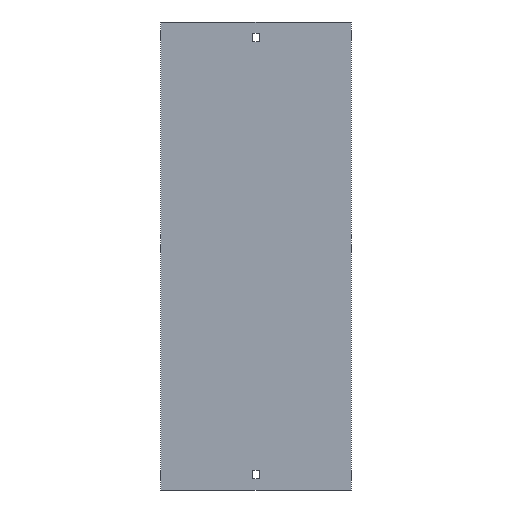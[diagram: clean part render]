
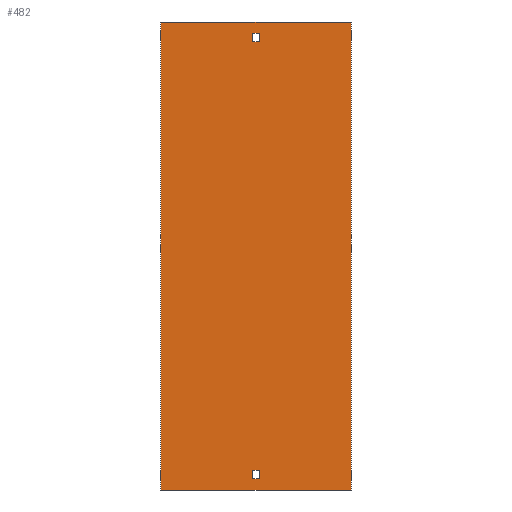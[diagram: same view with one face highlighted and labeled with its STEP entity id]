
A CAD part, front view. The second image highlights one B-rep face of the part: STEP entity #482.
In plain terms, the highlighted planar face has unit normal (0, -1, 0).
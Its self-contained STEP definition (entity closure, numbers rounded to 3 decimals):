
#35 = ORIENTED_EDGE ( 'NONE', *, *, #42, .F. ) ;
#42 = EDGE_CURVE ( 'NONE', #910, #821, #952, .T. ) ;
#77 = ORIENTED_EDGE ( 'NONE', *, *, #685, .T. ) ;
#100 = VECTOR ( 'NONE', #234, 1000. ) ;
#101 = EDGE_LOOP ( 'NONE', ( #1099, #504, #994, #1231 ) ) ;
#118 = CARTESIAN_POINT ( 'NONE',  ( -102., 0., 250. ) ) ;
#122 = VECTOR ( 'NONE', #923, 1000. ) ;
#124 = CARTESIAN_POINT ( 'NONE',  ( 3.25, 0., 238. ) ) ;
#126 = VECTOR ( 'NONE', #252, 1000. ) ;
#147 = DIRECTION ( 'NONE',  ( -1., 0., 0. ) ) ;
#161 = DIRECTION ( 'NONE',  ( 0., 0., -1. ) ) ;
#170 = EDGE_CURVE ( 'NONE', #935, #1529, #1062, .T. ) ;
#190 = CARTESIAN_POINT ( 'NONE',  ( -3.25, 0., 229. ) ) ;
#193 = CARTESIAN_POINT ( 'NONE',  ( -3.25, 0., -229. ) ) ;
#229 = CARTESIAN_POINT ( 'NONE',  ( -102., 0., 250. ) ) ;
#234 = DIRECTION ( 'NONE',  ( 0., 0., 1. ) ) ;
#252 = DIRECTION ( 'NONE',  ( 1., 0., 0. ) ) ;
#257 = VERTEX_POINT ( 'NONE', #1350 ) ;
#287 = VECTOR ( 'NONE', #414, 1000. ) ;
#301 = VECTOR ( 'NONE', #161, 1000. ) ;
#327 = EDGE_CURVE ( 'NONE', #1215, #1203, #338, .T. ) ;
#338 = LINE ( 'NONE', #190, #889 ) ;
#339 = VECTOR ( 'NONE', #896, 1000. ) ;
#354 = EDGE_CURVE ( 'NONE', #1529, #1215, #993, .T. ) ;
#355 = DIRECTION ( 'NONE',  ( -1., 0., 0. ) ) ;
#366 = FACE_BOUND ( 'NONE', #1075, .T. ) ;
#368 = DIRECTION ( 'NONE',  ( 1., 0., 0. ) ) ;
#382 = LINE ( 'NONE', #1553, #339 ) ;
#391 = DIRECTION ( 'NONE',  ( 0., 0., -1. ) ) ;
#414 = DIRECTION ( 'NONE',  ( 0., 0., -1. ) ) ;
#466 = FACE_BOUND ( 'NONE', #101, .T. ) ;
#482 = ADVANCED_FACE ( 'NONE', ( #1126, #466, #366 ), #1262, .F. ) ;
#485 = VECTOR ( 'NONE', #355, 1000. ) ;
#504 = ORIENTED_EDGE ( 'NONE', *, *, #354, .F. ) ;
#538 = ORIENTED_EDGE ( 'NONE', *, *, #1612, .F. ) ;
#577 = CARTESIAN_POINT ( 'NONE',  ( 102., 0., 250. ) ) ;
#598 = EDGE_CURVE ( 'NONE', #1203, #935, #1303, .T. ) ;
#609 = EDGE_CURVE ( 'NONE', #1047, #821, #382, .T. ) ;
#643 = LINE ( 'NONE', #1032, #100 ) ;
#659 = DIRECTION ( 'NONE',  ( 0., 0., -1. ) ) ;
#674 = CARTESIAN_POINT ( 'NONE',  ( 3.25, 0., -229. ) ) ;
#685 = EDGE_CURVE ( 'NONE', #1438, #1249, #1349, .T. ) ;
#730 = CARTESIAN_POINT ( 'NONE',  ( -3.25, 0., -238. ) ) ;
#765 = CARTESIAN_POINT ( 'NONE',  ( -102., 0., -250. ) ) ;
#787 = EDGE_CURVE ( 'NONE', #1249, #257, #864, .T. ) ;
#821 = VERTEX_POINT ( 'NONE', #1519 ) ;
#849 = ORIENTED_EDGE ( 'NONE', *, *, #787, .T. ) ;
#852 = VECTOR ( 'NONE', #391, 1000. ) ;
#853 = DIRECTION ( 'NONE',  ( 0., 1., 0. ) ) ;
#864 = LINE ( 'NONE', #730, #485 ) ;
#868 = CARTESIAN_POINT ( 'NONE',  ( -3.25, 0., 238. ) ) ;
#877 = DIRECTION ( 'NONE',  ( 1., 0., 0. ) ) ;
#889 = VECTOR ( 'NONE', #877, 1000. ) ;
#896 = DIRECTION ( 'NONE',  ( 1., 0., 0. ) ) ;
#910 = VERTEX_POINT ( 'NONE', #1630 ) ;
#923 = DIRECTION ( 'NONE',  ( 0., 0., 1. ) ) ;
#935 = VERTEX_POINT ( 'NONE', #1271 ) ;
#945 = ORIENTED_EDGE ( 'NONE', *, *, #1659, .T. ) ;
#952 = LINE ( 'NONE', #577, #301 ) ;
#959 = EDGE_CURVE ( 'NONE', #257, #1190, #643, .T. ) ;
#974 = CARTESIAN_POINT ( 'NONE',  ( -3.25, 0., 238. ) ) ;
#993 = LINE ( 'NONE', #868, #852 ) ;
#994 = ORIENTED_EDGE ( 'NONE', *, *, #170, .F. ) ;
#1015 = LINE ( 'NONE', #1535, #126 ) ;
#1032 = CARTESIAN_POINT ( 'NONE',  ( -3.25, 0., -238. ) ) ;
#1035 = EDGE_CURVE ( 'NONE', #1190, #1438, #1015, .T. ) ;
#1037 = EDGE_LOOP ( 'NONE', ( #1579, #35, #538, #945 ) ) ;
#1047 = VERTEX_POINT ( 'NONE', #765 ) ;
#1062 = LINE ( 'NONE', #1323, #1097 ) ;
#1075 = EDGE_LOOP ( 'NONE', ( #1468, #1411, #77, #849 ) ) ;
#1097 = VECTOR ( 'NONE', #147, 1000. ) ;
#1099 = ORIENTED_EDGE ( 'NONE', *, *, #327, .F. ) ;
#1114 = CARTESIAN_POINT ( 'NONE',  ( -3.25, 0., 229. ) ) ;
#1126 = FACE_OUTER_BOUND ( 'NONE', #1037, .T. ) ;
#1190 = VERTEX_POINT ( 'NONE', #193 ) ;
#1191 = CARTESIAN_POINT ( 'NONE',  ( 3.25, 0., -238. ) ) ;
#1203 = VERTEX_POINT ( 'NONE', #1248 ) ;
#1215 = VERTEX_POINT ( 'NONE', #1114 ) ;
#1219 = CARTESIAN_POINT ( 'NONE',  ( 3.25, 0., -238. ) ) ;
#1231 = ORIENTED_EDGE ( 'NONE', *, *, #598, .F. ) ;
#1248 = CARTESIAN_POINT ( 'NONE',  ( 3.25, 0., 229. ) ) ;
#1249 = VERTEX_POINT ( 'NONE', #1219 ) ;
#1262 = PLANE ( 'NONE',  #1560 ) ;
#1271 = CARTESIAN_POINT ( 'NONE',  ( 3.25, 0., 238. ) ) ;
#1281 = VECTOR ( 'NONE', #368, 1000. ) ;
#1303 = LINE ( 'NONE', #124, #122 ) ;
#1312 = LINE ( 'NONE', #118, #1661 ) ;
#1323 = CARTESIAN_POINT ( 'NONE',  ( -3.25, 0., 238. ) ) ;
#1349 = LINE ( 'NONE', #1191, #287 ) ;
#1350 = CARTESIAN_POINT ( 'NONE',  ( -3.25, 0., -238. ) ) ;
#1373 = DIRECTION ( 'NONE',  ( -1., 0., 0. ) ) ;
#1384 = CARTESIAN_POINT ( 'NONE',  ( -102., 0., 250. ) ) ;
#1396 = LINE ( 'NONE', #229, #1281 ) ;
#1411 = ORIENTED_EDGE ( 'NONE', *, *, #1035, .T. ) ;
#1438 = VERTEX_POINT ( 'NONE', #674 ) ;
#1468 = ORIENTED_EDGE ( 'NONE', *, *, #959, .T. ) ;
#1519 = CARTESIAN_POINT ( 'NONE',  ( 102., 0., -250. ) ) ;
#1529 = VERTEX_POINT ( 'NONE', #974 ) ;
#1535 = CARTESIAN_POINT ( 'NONE',  ( -3.25, 0., -229. ) ) ;
#1540 = CARTESIAN_POINT ( 'NONE',  ( -102., 0., 250. ) ) ;
#1553 = CARTESIAN_POINT ( 'NONE',  ( -102., 0., -250. ) ) ;
#1560 = AXIS2_PLACEMENT_3D ( 'NONE', #1384, #853, #1373 ) ;
#1568 = VERTEX_POINT ( 'NONE', #1540 ) ;
#1579 = ORIENTED_EDGE ( 'NONE', *, *, #609, .T. ) ;
#1612 = EDGE_CURVE ( 'NONE', #1568, #910, #1396, .T. ) ;
#1630 = CARTESIAN_POINT ( 'NONE',  ( 102., 0., 250. ) ) ;
#1659 = EDGE_CURVE ( 'NONE', #1568, #1047, #1312, .T. ) ;
#1661 = VECTOR ( 'NONE', #659, 1000. ) ;
